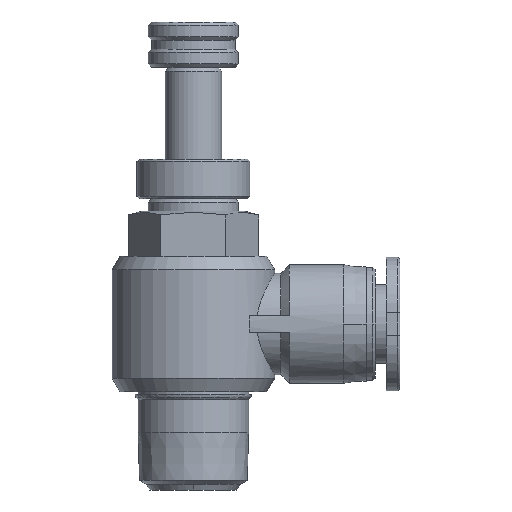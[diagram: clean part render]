
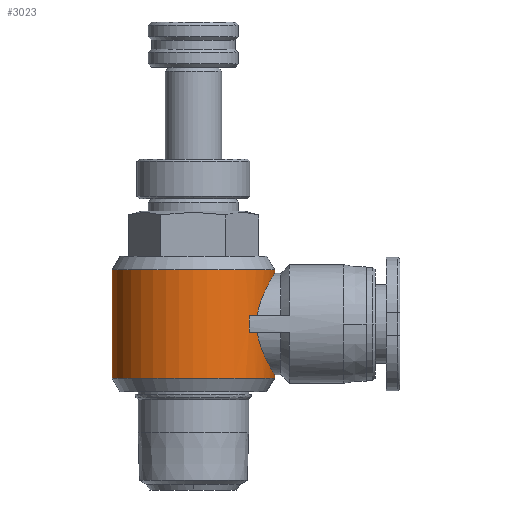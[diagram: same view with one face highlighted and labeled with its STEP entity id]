
A CAD part, front view. The second image highlights one B-rep face of the part: STEP entity #3023.
In plain terms, the highlighted cylindrical face has radius 7.2 mm (diameter 14.4 mm), a partial arc.
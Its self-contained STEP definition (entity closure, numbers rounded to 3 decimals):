
#5 = CARTESIAN_POINT ( 'NONE',  ( 6.968, -1.832, 18.819 ) ) ;
#33 = CARTESIAN_POINT ( 'NONE',  ( 6.749, -2.519, 10.962 ) ) ;
#79 = DIRECTION ( 'NONE',  ( 0., 0., 1. ) ) ;
#110 = CARTESIAN_POINT ( 'NONE',  ( 7.08, -1.334, 19.006 ) ) ;
#118 = CARTESIAN_POINT ( 'NONE',  ( 7.124, -1.077, 19.077 ) ) ;
#176 = CARTESIAN_POINT ( 'NONE',  ( 7.184, -0.549, 19.174 ) ) ;
#181 = CARTESIAN_POINT ( 'NONE',  ( 7.2, -0.275, 19.2 ) ) ;
#190 = CARTESIAN_POINT ( 'NONE',  ( 7.2, 0., 19.2 ) ) ;
#197 = CARTESIAN_POINT ( 'NONE',  ( 4.984, -5.196, 15.45 ) ) ;
#217 = ORIENTED_EDGE ( 'NONE', *, *, #1617, .F. ) ;
#222 = VERTEX_POINT ( 'NONE', #3277 ) ;
#234 = CARTESIAN_POINT ( 'NONE',  ( 7.2, 0., 9.912 ) ) ;
#238 = CARTESIAN_POINT ( 'NONE',  ( 4.947, -5.232, 15.202 ) ) ;
#266 = CARTESIAN_POINT ( 'NONE',  ( 4.927, -5.25, 14.952 ) ) ;
#273 = DIRECTION ( 'NONE',  ( 0., 0., 1. ) ) ;
#295 = CARTESIAN_POINT ( 'NONE',  ( 7.2, 0., 9.912 ) ) ;
#304 = CARTESIAN_POINT ( 'NONE',  ( 6.491, -3.123, 11.45 ) ) ;
#332 = CIRCLE ( 'NONE', #2466, 7.2 ) ;
#404 = DIRECTION ( 'NONE',  ( 0., 0., -1. ) ) ;
#407 = CARTESIAN_POINT ( 'NONE',  ( 0., 0., 9.912 ) ) ;
#465 = CARTESIAN_POINT ( 'NONE',  ( 4.927, -5.25, 14.452 ) ) ;
#474 = CARTESIAN_POINT ( 'NONE',  ( 4.947, -5.232, 14.199 ) ) ;
#476 = B_SPLINE_CURVE_WITH_KNOTS ( 'NONE', 3,
 ( #3010, #1068, #1652, #1978, #3052, #2733, #3272, #3362, #3180, #2969, #2743, #1886, #5, #110, #118, #176, #181, #190 ),
 .UNSPECIFIED., .F., .F.,
 ( 4, 2, 2, 2, 2, 2, 2, 2, 4 ),
 ( -0.007, -0.006, -0.005, -0.004, -0.003, -0.002, -0.002, -0.001, 0. ),
 .UNSPECIFIED. ) ;
#484 = VERTEX_POINT ( 'NONE', #2839 ) ;
#487 = CARTESIAN_POINT ( 'NONE',  ( 4.984, -5.196, 13.95 ) ) ;
#548 = EDGE_CURVE ( 'NONE', #222, #484, #476, .T. ) ;
#550 = CARTESIAN_POINT ( 'NONE',  ( 4.984, -5.196, 13.95 ) ) ;
#559 = CARTESIAN_POINT ( 'NONE',  ( 6.221, -3.63, 12.029 ) ) ;
#582 = CARTESIAN_POINT ( 'NONE',  ( 0., 0., 19.488 ) ) ;
#587 = CARTESIAN_POINT ( 'NONE',  ( -7.2, 0., 9.912 ) ) ;
#588 = ORIENTED_EDGE ( 'NONE', *, *, #698, .T. ) ;
#612 = VERTEX_POINT ( 'NONE', #1260 ) ;
#663 = DIRECTION ( 'NONE',  ( 1., 0., 0. ) ) ;
#698 = EDGE_CURVE ( 'NONE', #925, #612, #332, .T. ) ;
#707 = DIRECTION ( 'NONE',  ( 0., 0., 1. ) ) ;
#722 = ORIENTED_EDGE ( 'NONE', *, *, #1986, .T. ) ;
#732 = ORIENTED_EDGE ( 'NONE', *, *, #2731, .T. ) ;
#738 = DIRECTION ( 'NONE',  ( 1., 0., 0. ) ) ;
#764 = CIRCLE ( 'NONE', #1926, 7.2 ) ;
#794 = CARTESIAN_POINT ( 'NONE',  ( 7.2, 0., 10.2 ) ) ;
#808 = CARTESIAN_POINT ( 'NONE',  ( 5.966, -4.033, 12.687 ) ) ;
#820 = VERTEX_POINT ( 'NONE', #3004 ) ;
#895 = CIRCLE ( 'NONE', #3047, 7.2 ) ;
#925 = VERTEX_POINT ( 'NONE', #1168 ) ;
#959 = VECTOR ( 'NONE', #273, 1000. ) ;
#1021 = B_SPLINE_CURVE_WITH_KNOTS ( 'NONE', 3,
 ( #794, #1822, #1051, #2887, #1310, #3160, #1562, #33, #1830, #304, #2112, #559, #2383, #808, #2636, #1060, #2907, #1323 ),
 .UNSPECIFIED., .F., .F.,
 ( 4, 2, 2, 2, 2, 2, 2, 2, 4 ),
 ( 0.006, 0.007, 0.008, 0.009, 0.01, 0.011, 0.011, 0.012, 0.013 ),
 .UNSPECIFIED. ) ;
#1051 = CARTESIAN_POINT ( 'NONE',  ( 7.184, -0.544, 10.225 ) ) ;
#1060 = CARTESIAN_POINT ( 'NONE',  ( 5.759, -4.322, 13.42 ) ) ;
#1062 = EDGE_CURVE ( 'NONE', #2648, #612, #1627, .T. ) ;
#1068 = CARTESIAN_POINT ( 'NONE',  ( 5.706, -4.392, 15.719 ) ) ;
#1115 = ORIENTED_EDGE ( 'NONE', *, *, #1062, .F. ) ;
#1155 = DIRECTION ( 'NONE',  ( 0., 0., 1. ) ) ;
#1168 = CARTESIAN_POINT ( 'NONE',  ( 7.2, 0., 19.488 ) ) ;
#1219 = EDGE_CURVE ( 'NONE', #2648, #1595, #895, .T. ) ;
#1260 = CARTESIAN_POINT ( 'NONE',  ( -7.2, 0., 19.488 ) ) ;
#1285 = DIRECTION ( 'NONE',  ( 1., 0., 0. ) ) ;
#1305 = DIRECTION ( 'NONE',  ( 0., 0., -1. ) ) ;
#1310 = CARTESIAN_POINT ( 'NONE',  ( 7.08, -1.335, 10.394 ) ) ;
#1315 = B_SPLINE_CURVE_WITH_KNOTS ( 'NONE', 3,
 ( #197, #238, #266, #465, #474, #487 ),
 .UNSPECIFIED., .F., .F.,
 ( 4, 2, 4 ),
 ( 0., 0.001, 0.002 ),
 .UNSPECIFIED. ) ;
#1323 = CARTESIAN_POINT ( 'NONE',  ( 5.67, -4.437, 13.95 ) ) ;
#1350 = ORIENTED_EDGE ( 'NONE', *, *, #548, .T. ) ;
#1404 = CYLINDRICAL_SURFACE ( 'NONE', #2619, 7.2 ) ;
#1492 = AXIS2_PLACEMENT_3D ( 'NONE', #2240, #707, #2527 ) ;
#1562 = CARTESIAN_POINT ( 'NONE',  ( 6.9, -2.07, 10.696 ) ) ;
#1587 = CARTESIAN_POINT ( 'NONE',  ( 0., 0., 9.912 ) ) ;
#1595 = VERTEX_POINT ( 'NONE', #234 ) ;
#1617 = EDGE_CURVE ( 'NONE', #820, #3273, #1315, .T. ) ;
#1627 = LINE ( 'NONE', #587, #2198 ) ;
#1652 = CARTESIAN_POINT ( 'NONE',  ( 5.759, -4.323, 15.976 ) ) ;
#1767 = VECTOR ( 'NONE', #3066, 1000. ) ;
#1777 = EDGE_LOOP ( 'NONE', ( #1115, #2359, #2994, #2142, #732, #217, #3074, #1350, #722, #588 ) ) ;
#1822 = CARTESIAN_POINT ( 'NONE',  ( 7.2, -0.275, 10.2 ) ) ;
#1830 = CARTESIAN_POINT ( 'NONE',  ( 6.665, -2.732, 11.115 ) ) ;
#1886 = CARTESIAN_POINT ( 'NONE',  ( 6.899, -2.073, 18.702 ) ) ;
#1894 = VERTEX_POINT ( 'NONE', #3018 ) ;
#1926 = AXIS2_PLACEMENT_3D ( 'NONE', #2878, #1305, #3147 ) ;
#1930 = CARTESIAN_POINT ( 'NONE',  ( 5.67, -4.437, 13.95 ) ) ;
#1978 = CARTESIAN_POINT ( 'NONE',  ( 5.888, -4.145, 16.47 ) ) ;
#1986 = EDGE_CURVE ( 'NONE', #484, #925, #2370, .T. ) ;
#2112 = CARTESIAN_POINT ( 'NONE',  ( 6.401, -3.302, 11.632 ) ) ;
#2142 = ORIENTED_EDGE ( 'NONE', *, *, #3270, .T. ) ;
#2178 = EDGE_CURVE ( 'NONE', #1595, #1894, #2472, .T. ) ;
#2198 = VECTOR ( 'NONE', #79, 1000. ) ;
#2240 = CARTESIAN_POINT ( 'NONE',  ( 0., 0., 15.45 ) ) ;
#2359 = ORIENTED_EDGE ( 'NONE', *, *, #1219, .T. ) ;
#2370 = LINE ( 'NONE', #295, #959 ) ;
#2383 = CARTESIAN_POINT ( 'NONE',  ( 6.131, -3.778, 12.241 ) ) ;
#2466 = AXIS2_PLACEMENT_3D ( 'NONE', #582, #404, #738 ) ;
#2472 = LINE ( 'NONE', #2776, #1767 ) ;
#2527 = DIRECTION ( 'NONE',  ( 1., 0., 0. ) ) ;
#2619 = AXIS2_PLACEMENT_3D ( 'NONE', #407, #1155, #663 ) ;
#2636 = CARTESIAN_POINT ( 'NONE',  ( 5.89, -4.142, 12.922 ) ) ;
#2648 = VERTEX_POINT ( 'NONE', #3028 ) ;
#2731 = EDGE_CURVE ( 'NONE', #2983, #3273, #764, .T. ) ;
#2733 = CARTESIAN_POINT ( 'NONE',  ( 6.132, -3.776, 17.161 ) ) ;
#2743 = CARTESIAN_POINT ( 'NONE',  ( 6.749, -2.52, 18.437 ) ) ;
#2776 = CARTESIAN_POINT ( 'NONE',  ( 7.2, 0., 9.912 ) ) ;
#2801 = CIRCLE ( 'NONE', #1492, 7.2 ) ;
#2839 = CARTESIAN_POINT ( 'NONE',  ( 7.2, 0., 19.2 ) ) ;
#2878 = CARTESIAN_POINT ( 'NONE',  ( 0., 0., 13.95 ) ) ;
#2887 = CARTESIAN_POINT ( 'NONE',  ( 7.125, -1.073, 10.321 ) ) ;
#2907 = CARTESIAN_POINT ( 'NONE',  ( 5.706, -4.392, 13.681 ) ) ;
#2969 = CARTESIAN_POINT ( 'NONE',  ( 6.666, -2.729, 18.287 ) ) ;
#2979 = FACE_OUTER_BOUND ( 'NONE', #1777, .T. ) ;
#2983 = VERTEX_POINT ( 'NONE', #1930 ) ;
#2994 = ORIENTED_EDGE ( 'NONE', *, *, #2178, .T. ) ;
#3004 = CARTESIAN_POINT ( 'NONE',  ( 4.984, -5.196, 15.45 ) ) ;
#3010 = CARTESIAN_POINT ( 'NONE',  ( 5.67, -4.437, 15.45 ) ) ;
#3018 = CARTESIAN_POINT ( 'NONE',  ( 7.2, 0., 10.2 ) ) ;
#3023 = ADVANCED_FACE ( '80', ( #2979 ), #1404, .T. ) ;
#3028 = CARTESIAN_POINT ( 'NONE',  ( -7.2, 0., 9.912 ) ) ;
#3038 = EDGE_CURVE ( 'NONE', #820, #222, #2801, .T. ) ;
#3047 = AXIS2_PLACEMENT_3D ( 'NONE', #1587, #3378, #1285 ) ;
#3052 = CARTESIAN_POINT ( 'NONE',  ( 5.965, -4.035, 16.709 ) ) ;
#3066 = DIRECTION ( 'NONE',  ( 0., 0., 1. ) ) ;
#3074 = ORIENTED_EDGE ( 'NONE', *, *, #3038, .T. ) ;
#3147 = DIRECTION ( 'NONE',  ( 1., 0., 0. ) ) ;
#3160 = CARTESIAN_POINT ( 'NONE',  ( 6.967, -1.833, 10.582 ) ) ;
#3180 = CARTESIAN_POINT ( 'NONE',  ( 6.492, -3.121, 17.952 ) ) ;
#3270 = EDGE_CURVE ( 'NONE', #1894, #2983, #1021, .T. ) ;
#3272 = CARTESIAN_POINT ( 'NONE',  ( 6.221, -3.63, 17.372 ) ) ;
#3273 = VERTEX_POINT ( 'NONE', #550 ) ;
#3277 = CARTESIAN_POINT ( 'NONE',  ( 5.67, -4.437, 15.45 ) ) ;
#3362 = CARTESIAN_POINT ( 'NONE',  ( 6.4, -3.303, 17.767 ) ) ;
#3378 = DIRECTION ( 'NONE',  ( 0., 0., 1. ) ) ;
